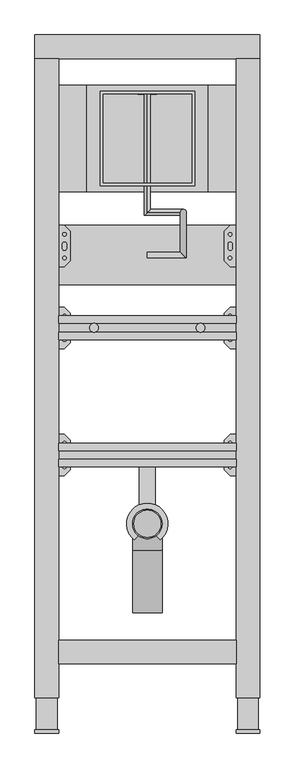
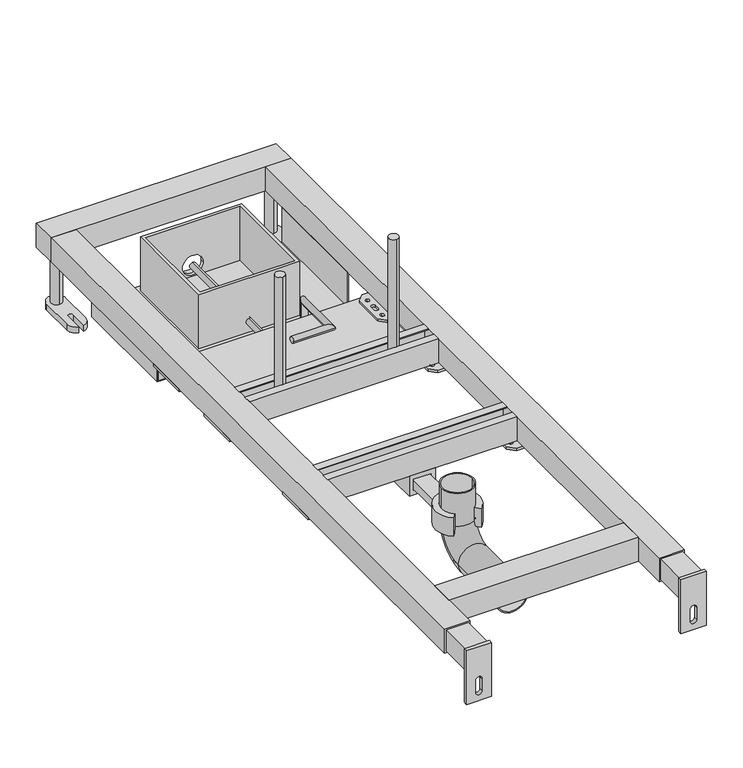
"""IFC4 building model written with IfcOpenShell, lengths in millimetres: sanitary terminal geometry, RSen_74_PF_FB_built-in element urinal xs mechanic for panel square_wisa : xs urinal mechanic for panel square_wisa_built-in element urinal."""

from ifc_helpers import new_model, si_unit, point, frame, frame_2d, origin, origin_with_axes, place, context, project, spatial, polyline, circle_curve, ellipse_curve, trimmed, segment, composite_curve, outline, extrude, source, transform, mapped, element, save
from ifc_brep_helpers import plane_surface, cylinder_surface, revolved_surface, advanced_brep


def sanitary_terminal_61f81738(model_context):
    return source(origin(), model_context, "Body", "SolidModel", [
        advanced_brep(
        [(0.0, 1079.85, 64.0), (0.0, 1079.85, 54.0), (0.0, 880.0, 64.0), (0.0, 880.0, 54.0), (56.0135548, 880.0, 64.0), (66.0135548, 880.0, 54.0), (56.0135548, 880.0, 99.0), (66.0135548, 880.0, 99.0), (56.0135548, 813.0, 99.0), (66.0135548, 803.0, 99.0), (0.0, 813.0, 99.0), (0.0, 803.0, 99.0)],
        [
            (0, 1, circle_curve(frame((0.0, 1079.85, 59.0), z_axis=(0.0, 1.0, 0.0), x_axis=(0.0, 0.0, -1.0)), 5.0)),
            (1, 0, circle_curve(frame((0.0, 1079.85, 59.0), z_axis=(0.0, 1.0, 0.0), x_axis=(0.0, 0.0, -1.0)), 5.0)),
            (0, 2),
            (2, 3, ellipse_curve(frame((0.0, 880.0, 59.0), z_axis=(-0.7071067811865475, 0.7071067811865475, 0.0), x_axis=(0.7071067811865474, 0.7071067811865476, 0.0)), 7.0710678, 5.0)),
            (3, 1),
            (3, 2, ellipse_curve(frame((0.0, 880.0, 59.0), z_axis=(-0.7071067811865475, 0.7071067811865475, 0.0), x_axis=(0.7071067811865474, 0.7071067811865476, 0.0)), 7.0710678, 5.0)),
            (2, 4),
            (4, 5, ellipse_curve(frame((61.0135548, 880.0, 59.0), z_axis=(-0.7071067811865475, 0.0, -0.7071067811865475), x_axis=(-0.7071067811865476, 0.0, 0.7071067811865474)), 7.0710678, 5.0)),
            (5, 3),
            (5, 4, ellipse_curve(frame((61.0135548, 880.0, 59.0), z_axis=(-0.7071067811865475, 0.0, -0.7071067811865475), x_axis=(-0.7071067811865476, 0.0, 0.7071067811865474)), 7.0710678, 5.0)),
            (4, 6),
            (6, 7, ellipse_curve(frame((61.0135548, 880.0, 99.0), z_axis=(0.0, 0.7071067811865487, -0.7071067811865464), x_axis=(0.0, -0.7071067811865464, -0.7071067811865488)), 7.0710678, 5.0)),
            (7, 5),
            (7, 6, ellipse_curve(frame((61.0135548, 880.0, 99.0), z_axis=(0.0, 0.7071067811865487, -0.7071067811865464), x_axis=(0.0, -0.7071067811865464, -0.7071067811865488)), 7.0710678, 5.0)),
            (6, 8),
            (8, 9, ellipse_curve(frame((61.0135548, 808.0, 99.0), z_axis=(0.7071067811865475, 0.7071067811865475, 0.0), x_axis=(-0.7071067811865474, 0.7071067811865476, 0.0)), 7.0710678, 5.0)),
            (9, 7),
            (9, 8, ellipse_curve(frame((61.0135548, 808.0, 99.0), z_axis=(0.7071067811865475, 0.7071067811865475, 0.0), x_axis=(-0.7071067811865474, 0.7071067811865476, 0.0)), 7.0710678, 5.0)),
            (10, 11, circle_curve(frame((0.0, 808.0, 99.0), z_axis=(-1.0, 0.0, 0.0), x_axis=(0.0, -1.0, 0.0)), 5.0)),
            (11, 10, circle_curve(frame((0.0, 808.0, 99.0), z_axis=(-1.0, 0.0, 0.0), x_axis=(0.0, -1.0, 0.0)), 5.0)),
            (8, 10),
            (11, 9),
        ],
        [
            plane_surface(frame((-5.0, 1079.85, 59.0), z_axis=(0.0, 1.0, 0.0), x_axis=(0.0, 0.0, -1.0))),
            cylinder_surface(frame((0.0, 1079.85, 59.0), z_axis=(0.0, 1.0, 0.0), x_axis=(0.0, 0.0, -1.0)), 5.0),
            cylinder_surface(frame((0.0, 880.0, 59.0), z_axis=(-1.0, 0.0, 0.0), x_axis=(0.0, 0.0, -1.0)), 5.0),
            cylinder_surface(frame((61.0135548, 880.0, 59.0), z_axis=(0.0, 0.0, -1.0), x_axis=(1.0, 0.0, 0.0)), 5.0),
            cylinder_surface(frame((61.0135548, 880.0, 99.0), z_axis=(0.0, 1.0, 0.0), x_axis=(1.0, 0.0, 0.0)), 5.0),
            plane_surface(frame((0.0, 808.0, 94.0), z_axis=(-1.0, 0.0, 0.0), x_axis=(0.0, -1.0, 0.0))),
            cylinder_surface(frame((61.0135548, 808.0, 99.0), z_axis=(1.0, 0.0, 0.0), x_axis=(0.0, -1.0, 0.0)), 5.0),
        ],
        [
            (0, [[1, 2]]),
            (1, [[-1, 3, 4, 5]]),
            (1, [[-2, -5, 6, -3]]),
            (2, [[-4, 7, 8, 9]]),
            (2, [[-6, -9, 10, -7]]),
            (3, [[-8, 11, 12, 13]]),
            (3, [[-10, -13, 14, -11]]),
            (4, [[-12, 15, 16, 17]]),
            (4, [[-14, -17, 18, -15]]),
            (5, [[19, 20]]),
            (6, [[-16, 21, -20, 22]]),
            (6, [[-18, -22, -19, -21]]),
        ],
    ),
        advanced_brep(
        [(-79.85, 1084.85, 131.5), (-79.85, 925.15, 131.5), (79.85, 925.15, 131.5), (79.85, 1084.85, 131.5), (74.85, 1079.85, 131.5), (74.85, 930.15, 131.5), (-74.85, 930.15, 131.5), (-74.85, 1079.85, 131.5), (-79.85, 1084.85, 41.5), (79.85, 1084.85, 41.5), (79.85, 925.15, 41.5), (-79.85, 925.15, 41.5), (74.85, 1079.85, 41.5), (-74.85, 1079.85, 41.5), (-74.85, 930.15, 41.5), (74.85, 930.15, 41.5), (-16.25, 1079.85, 59.5), (16.25, 1079.85, 59.5), (16.25, 1084.85, 59.5), (-16.25, 1084.85, 59.5)],
        [
            (0, 1),
            (1, 2),
            (2, 3),
            (3, 0),
            (4, 5),
            (5, 6),
            (6, 7),
            (7, 4),
            (8, 9),
            (9, 10),
            (10, 11),
            (11, 8),
            (12, 13),
            (13, 14),
            (14, 15),
            (15, 12),
            (4, 12),
            (15, 5),
            (14, 6),
            (13, 7),
            (16, 17, circle_curve(frame((0.0, 1079.85, 59.5), z_axis=(0.0, 1.0, 0.0), x_axis=(-1.0, 0.0, 0.0)), 16.25)),
            (17, 16, circle_curve(frame((0.0, 1079.85, 59.5), z_axis=(0.0, 1.0, 0.0), x_axis=(-1.0, 0.0, 0.0)), 16.25)),
            (0, 8),
            (11, 1),
            (10, 2),
            (9, 3),
            (18, 19, circle_curve(frame((0.0, 1084.85, 59.5), z_axis=(0.0, -1.0, 0.0), x_axis=(-1.0, 0.0, 0.0)), 16.25)),
            (19, 18, circle_curve(frame((0.0, 1084.85, 59.5), z_axis=(0.0, -1.0, 0.0), x_axis=(-1.0, 0.0, 0.0)), 16.25)),
            (18, 17),
            (16, 19),
        ],
        [
            plane_surface(frame((74.85, 1079.85, 131.5), z_axis=(0.0, 0.0, 1.0), x_axis=(0.0, -1.0, 0.0))),
            plane_surface(frame((74.85, 1079.85, 41.5), z_axis=(0.0, 0.0, -1.0), x_axis=(0.0, 1.0, 0.0))),
            plane_surface(frame((74.85, 1079.85, 131.5), z_axis=(-1.0, 0.0, 0.0), x_axis=(0.0, 0.0, -1.0))),
            plane_surface(frame((74.85, 930.15, 131.5), z_axis=(0.0, 1.0, 0.0), x_axis=(0.0, 0.0, -1.0))),
            plane_surface(frame((-74.85, 930.15, 131.5), z_axis=(1.0, 0.0, 0.0), x_axis=(0.0, 0.0, -1.0))),
            plane_surface(frame((-74.85, 1079.85, 131.5), z_axis=(0.0, -1.0, 0.0), x_axis=(0.0, 0.0, -1.0))),
            plane_surface(frame((-79.85, 1084.85, 131.5), z_axis=(-1.0, 0.0, 0.0), x_axis=(0.0, 0.0, -1.0))),
            plane_surface(frame((-79.85, 925.15, 131.5), z_axis=(0.0, -1.0, 0.0), x_axis=(0.0, 0.0, -1.0))),
            plane_surface(frame((79.85, 925.15, 131.5), z_axis=(1.0, 0.0, 0.0), x_axis=(0.0, 0.0, -1.0))),
            plane_surface(frame((79.85, 1084.85, 131.5), z_axis=(0.0, 1.0, 0.0), x_axis=(0.0, 0.0, -1.0))),
            revolved_surface(polyline([(-16.25, 1079.85, 59.5), (-16.25, 1084.85, 59.5)]), (0.0, 1084.85, 59.5), (0.0, -1.0, 0.0)),
        ],
        [
            (0, [[1, 2, 3, 4], [5, 6, 7, 8]]),
            (1, [[9, 10, 11, 12], [13, 14, 15, 16]]),
            (2, [[-5, 17, -16, 18]]),
            (3, [[-6, -18, -15, 19]]),
            (4, [[-7, -19, -14, 20]]),
            (5, [[-8, -20, -13, -17], [21, 22]]),
            (6, [[-1, 23, -12, 24]]),
            (7, [[-2, -24, -11, 25]]),
            (8, [[-3, -25, -10, 26]]),
            (9, [[-4, -26, -9, -23], [27, 28]]),
            (10, [[29, -21, 30, -27]]),
            (10, [[-29, -28, -30, -22]]),
        ],
    ),
        extrude(outline(polyline([(102.5, 1095.0), (102.5, 915.0), (-102.5, 915.0), (-102.5, 1095.0), (102.5, 1095.0)])), frame((0.0, 0.0, 36.5), z_axis=(0.0, 0.0, 1.0), x_axis=(1.0, 0.0, 0.0)), (0.0, 0.0, 1.0), 5.0),
        advanced_brep(
        [(-25.0, 353.6133796, 135.0), (25.0, 353.6133796, 135.0), (-23.0, 353.6133796, 135.0), (23.0, 353.6133796, 135.0), (-25.0, 353.6133796, 80.0), (25.0, 353.6133796, 80.0), (25.0, 308.6133796, 35.0), (-25.0, 308.6133796, 35.0), (-25.0, 203.6133796, 35.0), (25.0, 203.6133796, 35.0), (-23.0, 203.6133796, 35.0), (23.0, 203.6133796, 35.0), (-23.0, 353.6133796, 80.0), (23.0, 353.6133796, 80.0), (23.0, 308.6133796, 35.0), (-23.0, 308.6133796, 35.0)],
        [
            (0, 1, circle_curve(frame((0.0, 353.6133796, 135.0), z_axis=(0.0, 0.0, 1.0), x_axis=(1.0, 0.0, 0.0)), 25.0)),
            (1, 0, circle_curve(frame((0.0, 353.6133796, 135.0), z_axis=(0.0, 0.0, 1.0), x_axis=(1.0, 0.0, 0.0)), 25.0)),
            (2, 3, circle_curve(frame((0.0, 353.6133796, 135.0), z_axis=(0.0, 0.0, -1.0), x_axis=(1.0, 0.0, 0.0)), 23.0)),
            (3, 2, circle_curve(frame((0.0, 353.6133796, 135.0), z_axis=(0.0, 0.0, -1.0), x_axis=(1.0, 0.0, 0.0)), 23.0)),
            (0, 4),
            (4, 5, circle_curve(frame((0.0, 353.6133796, 80.0), z_axis=(0.0, 0.0, 1.0), x_axis=(1.0, 0.0, 0.0)), 25.0)),
            (5, 1),
            (5, 4, circle_curve(frame((0.0, 353.6133796, 80.0), z_axis=(0.0, 0.0, 1.0), x_axis=(1.0, 0.0, 0.0)), 25.0)),
            (6, 5, circle_curve(frame((25.0, 308.6133796, 80.0), z_axis=(1.0, 0.0, 0.0), x_axis=(0.0, 1.0, 0.0)), 45.0)),
            (4, 7, circle_curve(frame((-25.0, 308.6133796, 80.0), z_axis=(-1.0, 0.0, 0.0), x_axis=(0.0, 1.0, 0.0)), 45.0)),
            (7, 6, circle_curve(frame((0.0, 308.6133796, 35.0), z_axis=(0.0, 1.0, 0.0), x_axis=(1.0, 0.0, 0.0)), 25.0)),
            (6, 7, circle_curve(frame((0.0, 308.6133796, 35.0), z_axis=(0.0, 1.0, 0.0), x_axis=(1.0, 0.0, 0.0)), 25.0)),
            (8, 9, circle_curve(frame((0.0, 203.6133796, 35.0), z_axis=(0.0, -1.0, 0.0), x_axis=(1.0, 0.0, 0.0)), 25.0)),
            (9, 8, circle_curve(frame((0.0, 203.6133796, 35.0), z_axis=(0.0, -1.0, 0.0), x_axis=(1.0, 0.0, 0.0)), 25.0)),
            (10, 11, circle_curve(frame((0.0, 203.6133796, 35.0), z_axis=(0.0, 1.0, 0.0), x_axis=(1.0, 0.0, 0.0)), 23.0)),
            (11, 10, circle_curve(frame((0.0, 203.6133796, 35.0), z_axis=(0.0, 1.0, 0.0), x_axis=(1.0, 0.0, 0.0)), 23.0)),
            (7, 8),
            (9, 6),
            (2, 12),
            (12, 13, circle_curve(frame((0.0, 353.6133796, 80.0), z_axis=(0.0, 0.0, -1.0), x_axis=(1.0, 0.0, 0.0)), 23.0)),
            (13, 3),
            (13, 12, circle_curve(frame((0.0, 353.6133796, 80.0), z_axis=(0.0, 0.0, -1.0), x_axis=(1.0, 0.0, 0.0)), 23.0)),
            (14, 13, circle_curve(frame((23.0, 308.6133796, 80.0), z_axis=(1.0, 0.0, 0.0), x_axis=(0.0, 1.0, 0.0)), 45.0)),
            (12, 15, circle_curve(frame((-23.0, 308.6133796, 80.0), z_axis=(-1.0, 0.0, 0.0), x_axis=(0.0, 1.0, 0.0)), 45.0)),
            (15, 14, circle_curve(frame((0.0, 308.6133796, 35.0), z_axis=(0.0, -1.0, 0.0), x_axis=(1.0, 0.0, 0.0)), 23.0)),
            (14, 15, circle_curve(frame((0.0, 308.6133796, 35.0), z_axis=(0.0, -1.0, 0.0), x_axis=(1.0, 0.0, 0.0)), 23.0)),
            (15, 10),
            (11, 14),
        ],
        [
            plane_surface(frame((0.0, 353.6133796, 135.0), z_axis=(0.0, 0.0, 1.0), x_axis=(1.0, 0.0, 0.0))),
            cylinder_surface(frame((0.0, 353.6133796, 135.0), z_axis=(0.0, 0.0, 1.0), x_axis=(1.0, 0.0, 0.0)), 25.0),
            revolved_surface(trimmed(ellipse_curve(frame((0.0, 353.6133796, 80.0), z_axis=(0.0, 0.0, 1.0), x_axis=(1.0, 0.0, 0.0)), 25.0, 25.0), [point((-25.0, 353.6133796, 80.0))], [point((25.0, 353.6133796, 80.0))], True, "CARTESIAN"), (0.0, 308.6133796, 80.0), (-1.0, 0.0, 0.0)),
            revolved_surface(trimmed(ellipse_curve(frame((0.0, 353.6133796, 80.0), z_axis=(0.0, 0.0, 1.0), x_axis=(1.0, 0.0, 0.0)), 25.0, 25.0), [point((25.0, 353.6133796, 80.0))], [point((-25.0, 353.6133796, 80.0))], True, "CARTESIAN"), (0.0, 308.6133796, 80.0), (-1.0, 0.0, 0.0)),
            plane_surface(frame((0.0, 203.6133796, 35.0), z_axis=(0.0, -1.0, 0.0), x_axis=(1.0, 0.0, 0.0))),
            cylinder_surface(frame((0.0, 308.6133796, 35.0), z_axis=(0.0, 1.0, 0.0), x_axis=(1.0, 0.0, 0.0)), 25.0),
            revolved_surface(polyline([(23.0, 353.6133796, 80.0), (23.0, 353.6133796, 135.0)]), (0.0, 353.6133796, 135.0), (0.0, 0.0, -1.0)),
            revolved_surface(trimmed(ellipse_curve(frame((0.0, 353.6133796, 80.0), z_axis=(0.0, 0.0, -1.0), x_axis=(1.0, 0.0, 0.0)), 23.0, 23.0), [point((-23.0, 353.6133796, 80.0))], [point((23.0, 353.6133796, 80.0))], True, "CARTESIAN"), (0.0, 308.6133796, 80.0), (-1.0, 0.0, 0.0)),
            revolved_surface(trimmed(ellipse_curve(frame((0.0, 353.6133796, 80.0), z_axis=(0.0, 0.0, -1.0), x_axis=(1.0, 0.0, 0.0)), 23.0, 23.0), [point((23.0, 353.6133796, 80.0))], [point((-23.0, 353.6133796, 80.0))], True, "CARTESIAN"), (0.0, 308.6133796, 80.0), (-1.0, 0.0, 0.0)),
            revolved_surface(polyline([(23.0, 203.6133796, 35.0), (23.0, 308.6133796, 35.0)]), (0.0, 308.6133796, 35.0), (0.0, -1.0, 0.0)),
        ],
        [
            (0, [[1, 2], [3, 4]]),
            (1, [[-1, 5, 6, 7]]),
            (1, [[-2, -7, 8, -5]]),
            (2, [[9, -6, 10, 11]]),
            (3, [[-10, -8, -9, 12]]),
            (4, [[13, 14], [15, 16]]),
            (5, [[-11, 17, -14, 18]]),
            (5, [[-12, -18, -13, -17]]),
            (6, [[-3, 19, 20, 21]]),
            (6, [[-4, -21, 22, -19]]),
            (7, [[23, -20, 24, 25]]),
            (8, [[-24, -22, -23, 26]]),
            (9, [[-25, 27, -16, 28]]),
            (9, [[-26, -28, -15, -27]]),
        ],
    ),
        extrude(outline(composite_curve([segment(trimmed(circle_curve(frame_2d((-0.1785173, 353.614017)), 25.0), [point((14.8942159, 333.6687741))], [point((-15.2512505, 333.6687741))], True, "CARTESIAN"), True, "CONTINUOUS"), segment(polyline([(-15.2512505, 333.6687741), (-22.3707959, 326.5492287)]), True, "CONTINUOUS"), segment(trimmed(circle_curve(frame_2d((-0.1785173, 353.614017)), 35.0), [point((-22.3707959, 326.5492287))], [point((-0.1785173, 388.614017))], False, "CARTESIAN"), True, "CONTINUOUS"), segment(trimmed(circle_curve(frame_2d((-0.1785173, 353.614017)), 35.0), [point((-0.1785173, 388.614017))], [point((22.0137614, 326.5492287))], False, "CARTESIAN"), True, "CONTINUOUS"), segment(polyline([(22.0137614, 326.5492287), (14.8942159, 333.6687741)]), True, "CONTINUOUS")], self_intersect=False)), frame((0.0, 0.0, 70.0), z_axis=(0.0, 0.0, 1.0), x_axis=(1.0, 0.0, 0.0)), (0.0, 0.0, 1.0), 31.0),
        extrude(outline(polyline([(-13.9285173, 490.0), (13.5714827, 490.0), (13.5714827, 385.8), (-13.9285173, 385.8), (-13.9285173, 490.0)])), frame((0.0, 0.0, 71.5), z_axis=(0.0, 0.0, 1.0), x_axis=(1.0, 0.0, 0.0)), (0.0, 0.0, 1.0), 13.5),
        extrude(outline(polyline([(95.0, 20.75), (95.0, -20.75), (61.5, -20.75), (61.5, 20.75), (95.0, 20.75)]), holes=[polyline([(87.5, 13.5714827), (69.0, 13.5714827), (69.0, -13.9285173), (87.5, -13.9285173), (87.5, 13.5714827)])]), frame((0.0, 450.0, 0.0), z_axis=(0.0, 1.0, 0.0), x_axis=(0.0, 0.0, 1.0)), (0.0, 0.0, 1.0), 40.0),
        extrude(outline(composite_curve([segment(trimmed(circle_curve(frame_2d((-90.0, 685.0)), 7.5154833), [point((-90.0, 692.5154833))], [point((-90.0, 677.4845167))], False, "CARTESIAN"), True, "CONTINUOUS"), segment(trimmed(circle_curve(frame_2d((-90.0, 685.0)), 7.5154833), [point((-90.0, 677.4845167))], [point((-90.0, 692.5154833))], False, "CARTESIAN"), True, "CONTINUOUS")], self_intersect=False)), frame((0.0, 0.0, 115.0), z_axis=(0.0, 0.0, 1.0), x_axis=(1.0, 0.0, 0.0)), (0.0, 0.0, 1.0), 200.0),
        extrude(outline(composite_curve([segment(trimmed(circle_curve(frame_2d((90.0, 685.0)), 7.5154833), [point((90.0, 692.5154833))], [point((90.0, 677.4845167))], False, "CARTESIAN"), True, "CONTINUOUS"), segment(trimmed(circle_curve(frame_2d((90.0, 685.0)), 7.5154833), [point((90.0, 677.4845167))], [point((90.0, 692.5154833))], False, "CARTESIAN"), True, "CONTINUOUS")], self_intersect=False)), frame((0.0, 0.0, 115.0), z_axis=(0.0, 0.0, 1.0), x_axis=(1.0, 0.0, 0.0)), (0.0, 0.0, 1.0), 200.0),
        extrude(outline(polyline([(150.0, 1095.0), (150.0, 915.0), (-150.0, 915.0), (-150.0, 1095.0), (150.0, 1095.0)])), frame((0.0, 0.0, 18.5), z_axis=(0.0, 0.0, 1.0), x_axis=(1.0, 0.0, 0.0)), (0.0, 0.0, 1.0), 18.0),
        extrude(outline(polyline([(95.0, -185.0), (93.5, -185.0), (93.5, -151.5), (17.0, -151.5), (17.0, -123.5), (18.5, -123.5), (18.5, -150.0), (95.0, -150.0), (95.0, -185.0)])), frame((0.0, 915.0, 0.0), z_axis=(0.0, 1.0, 0.0), x_axis=(0.0, 0.0, 1.0)), (0.0, 0.0, 1.0), 180.0),
        extrude(outline(polyline([(95.0, 185.0), (95.0, 150.0), (18.5, 150.0), (18.5, 123.5), (17.0, 123.5), (17.0, 151.5), (93.5, 151.5), (93.5, 185.0), (95.0, 185.0)])), frame((0.0, 915.0, 0.0), z_axis=(0.0, 1.0, 0.0), x_axis=(0.0, 0.0, 1.0)), (0.0, 0.0, 1.0), 180.0),
        extrude(outline(polyline([(150.0, 858.0), (150.0, 758.0), (-150.0, 758.0), (-150.0, 858.0), (150.0, 858.0)])), frame((0.0, 0.0, 73.0), z_axis=(0.0, 0.0, 1.0), x_axis=(1.0, 0.0, 0.0)), (0.0, 0.0, 1.0), 18.0),
        extrude(outline(polyline([(665.0, 135.0), (677.4845167, 135.0), (677.4845167, 133.5), (666.5, 133.5), (666.5, 96.5), (703.5, 96.5), (703.5, 133.5), (692.5154833, 133.5), (692.5154833, 135.0), (705.0, 135.0), (705.0, 95.0), (665.0, 95.0), (665.0, 135.0)])), frame((-150.0, 0.0, 0.0), z_axis=(1.0, 0.0, 0.0), x_axis=(0.0, 1.0, 0.0)), (0.0, 0.0, 1.0), 300.0),
        extrude(outline(polyline([(450.0, 135.0), (462.4845167, 135.0), (462.4845167, 133.5), (451.5, 133.5), (451.5, 96.5), (488.5, 96.5), (488.5, 133.5), (477.5154833, 133.5), (477.5154833, 135.0), (490.0, 135.0), (490.0, 95.0), (450.0, 95.0), (450.0, 135.0)])), frame((-150.0, 0.0, 0.0), z_axis=(1.0, 0.0, 0.0), x_axis=(0.0, 1.0, 0.0)), (0.0, 0.0, 1.0), 300.0),
        extrude(outline(polyline([(140.0, 788.0), (130.0, 798.0), (130.0, 848.0), (140.0, 858.0), (190.0, 858.0), (190.0, 788.0), (140.0, 788.0)]), holes=[composite_curve([segment(trimmed(circle_curve(frame_2d((175.0, 823.0)), 4.5), [point((175.0, 818.5))], [point((175.0, 827.5))], True, "CARTESIAN"), True, "CONTINUOUS"), segment(trimmed(circle_curve(frame_2d((175.0, 823.0)), 4.5), [point((175.0, 827.5))], [point((175.0, 818.5))], True, "CARTESIAN"), True, "CONTINUOUS")], self_intersect=False), composite_curve([segment(trimmed(circle_curve(frame_2d((175.0, 843.0)), 4.5), [point((175.0, 838.5))], [point((175.0, 847.5))], True, "CARTESIAN"), True, "CONTINUOUS"), segment(trimmed(circle_curve(frame_2d((175.0, 843.0)), 4.5), [point((175.0, 847.5))], [point((175.0, 838.5))], True, "CARTESIAN"), True, "CONTINUOUS")], self_intersect=False), composite_curve([segment(trimmed(circle_curve(frame_2d((175.0, 803.0)), 4.5), [point((175.0, 798.5))], [point((175.0, 807.5))], True, "CARTESIAN"), True, "CONTINUOUS"), segment(trimmed(circle_curve(frame_2d((175.0, 803.0)), 4.5), [point((175.0, 807.5))], [point((175.0, 798.5))], True, "CARTESIAN"), True, "CONTINUOUS")], self_intersect=False), composite_curve([segment(trimmed(circle_curve(frame_2d((140.0, 843.0)), 2.9795218), [point((140.0, 840.0204782))], [point((140.0, 845.9795218))], True, "CARTESIAN"), True, "CONTINUOUS"), segment(trimmed(circle_curve(frame_2d((140.0, 843.0)), 2.9795218), [point((140.0, 845.9795218))], [point((140.0, 840.0204782))], True, "CARTESIAN"), True, "CONTINUOUS")], self_intersect=False), composite_curve([segment(trimmed(circle_curve(frame_2d((140.0, 803.0)), 2.9795218), [point((140.0, 800.0204782))], [point((140.0, 805.9795218))], True, "CARTESIAN"), True, "CONTINUOUS"), segment(trimmed(circle_curve(frame_2d((140.0, 803.0)), 2.9795218), [point((140.0, 805.9795218))], [point((140.0, 800.0204782))], True, "CARTESIAN"), True, "CONTINUOUS")], self_intersect=False), composite_curve([segment(trimmed(circle_curve(frame_2d((140.0, 826.5)), 3.5), [point((143.5, 826.5))], [point((136.5, 826.5))], True, "CARTESIAN"), True, "CONTINUOUS"), segment(polyline([(136.5, 826.5), (136.5, 819.5)]), True, "CONTINUOUS"), segment(trimmed(circle_curve(frame_2d((140.0, 819.5)), 3.5), [point((136.5, 819.5))], [point((143.5, 819.5))], True, "CARTESIAN"), True, "CONTINUOUS"), segment(polyline([(143.5, 819.5), (143.5, 826.5)]), True, "CONTINUOUS")], self_intersect=False)]), frame((0.0, 0.0, 91.0), z_axis=(0.0, 0.0, 1.0), x_axis=(1.0, 0.0, 0.0)), (0.0, 0.0, 1.0), 4.0),
        extrude(outline(polyline([(-140.0, 788.0), (-190.0, 788.0), (-190.0, 858.0), (-140.0, 858.0), (-130.0, 848.0), (-130.0, 798.0), (-140.0, 788.0)]), holes=[composite_curve([segment(trimmed(circle_curve(frame_2d((-175.0, 823.0)), 4.5), [point((-175.0, 818.5))], [point((-175.0, 827.5))], True, "CARTESIAN"), True, "CONTINUOUS"), segment(trimmed(circle_curve(frame_2d((-175.0, 823.0)), 4.5), [point((-175.0, 827.5))], [point((-175.0, 818.5))], True, "CARTESIAN"), True, "CONTINUOUS")], self_intersect=False), composite_curve([segment(trimmed(circle_curve(frame_2d((-175.0, 843.0)), 4.5), [point((-175.0, 838.5))], [point((-175.0, 847.5))], True, "CARTESIAN"), True, "CONTINUOUS"), segment(trimmed(circle_curve(frame_2d((-175.0, 843.0)), 4.5), [point((-175.0, 847.5))], [point((-175.0, 838.5))], True, "CARTESIAN"), True, "CONTINUOUS")], self_intersect=False), composite_curve([segment(trimmed(circle_curve(frame_2d((-175.0, 803.0)), 4.5), [point((-175.0, 798.5))], [point((-175.0, 807.5))], True, "CARTESIAN"), True, "CONTINUOUS"), segment(trimmed(circle_curve(frame_2d((-175.0, 803.0)), 4.5), [point((-175.0, 807.5))], [point((-175.0, 798.5))], True, "CARTESIAN"), True, "CONTINUOUS")], self_intersect=False), composite_curve([segment(trimmed(circle_curve(frame_2d((-140.0, 843.0)), 2.9795218), [point((-140.0, 840.0204782))], [point((-140.0, 845.9795218))], True, "CARTESIAN"), True, "CONTINUOUS"), segment(trimmed(circle_curve(frame_2d((-140.0, 843.0)), 2.9795218), [point((-140.0, 845.9795218))], [point((-140.0, 840.0204782))], True, "CARTESIAN"), True, "CONTINUOUS")], self_intersect=False), composite_curve([segment(trimmed(circle_curve(frame_2d((-140.0, 803.0)), 2.9795218), [point((-140.0, 800.0204782))], [point((-140.0, 805.9795218))], True, "CARTESIAN"), True, "CONTINUOUS"), segment(trimmed(circle_curve(frame_2d((-140.0, 803.0)), 2.9795218), [point((-140.0, 805.9795218))], [point((-140.0, 800.0204782))], True, "CARTESIAN"), True, "CONTINUOUS")], self_intersect=False), composite_curve([segment(polyline([(-143.5, 826.5), (-143.5, 819.5)]), True, "CONTINUOUS"), segment(trimmed(circle_curve(frame_2d((-140.0, 819.5)), 3.5), [point((-143.5, 819.5))], [point((-136.5, 819.5))], True, "CARTESIAN"), True, "CONTINUOUS"), segment(polyline([(-136.5, 819.5), (-136.5, 826.5)]), True, "CONTINUOUS"), segment(trimmed(circle_curve(frame_2d((-140.0, 826.5)), 3.5), [point((-136.5, 826.5))], [point((-143.5, 826.5))], True, "CARTESIAN"), True, "CONTINUOUS")], self_intersect=False)]), frame((0.0, 0.0, 91.0), z_axis=(0.0, 0.0, 1.0), x_axis=(1.0, 0.0, 0.0)), (0.0, 0.0, 1.0), 4.0),
        extrude(outline(polyline([(140.0, 650.0), (130.0, 660.0), (130.0, 710.0), (140.0, 720.0), (190.0, 720.0), (190.0, 650.0), (140.0, 650.0)]), holes=[composite_curve([segment(trimmed(circle_curve(frame_2d((175.0, 685.0)), 4.5), [point((175.0, 680.5))], [point((175.0, 689.5))], True, "CARTESIAN"), True, "CONTINUOUS"), segment(trimmed(circle_curve(frame_2d((175.0, 685.0)), 4.5), [point((175.0, 689.5))], [point((175.0, 680.5))], True, "CARTESIAN"), True, "CONTINUOUS")], self_intersect=False), composite_curve([segment(trimmed(circle_curve(frame_2d((175.0, 705.0)), 4.5), [point((175.0, 700.5))], [point((175.0, 709.5))], True, "CARTESIAN"), True, "CONTINUOUS"), segment(trimmed(circle_curve(frame_2d((175.0, 705.0)), 4.5), [point((175.0, 709.5))], [point((175.0, 700.5))], True, "CARTESIAN"), True, "CONTINUOUS")], self_intersect=False), composite_curve([segment(trimmed(circle_curve(frame_2d((175.0, 665.0)), 4.5), [point((175.0, 660.5))], [point((175.0, 669.5))], True, "CARTESIAN"), True, "CONTINUOUS"), segment(trimmed(circle_curve(frame_2d((175.0, 665.0)), 4.5), [point((175.0, 669.5))], [point((175.0, 660.5))], True, "CARTESIAN"), True, "CONTINUOUS")], self_intersect=False), composite_curve([segment(trimmed(circle_curve(frame_2d((140.0, 705.0)), 2.9795218), [point((140.0, 702.0204782))], [point((140.0, 707.9795218))], True, "CARTESIAN"), True, "CONTINUOUS"), segment(trimmed(circle_curve(frame_2d((140.0, 705.0)), 2.9795218), [point((140.0, 707.9795218))], [point((140.0, 702.0204782))], True, "CARTESIAN"), True, "CONTINUOUS")], self_intersect=False), composite_curve([segment(trimmed(circle_curve(frame_2d((140.0, 665.0)), 2.9795218), [point((140.0, 662.0204782))], [point((140.0, 667.9795218))], True, "CARTESIAN"), True, "CONTINUOUS"), segment(trimmed(circle_curve(frame_2d((140.0, 665.0)), 2.9795218), [point((140.0, 667.9795218))], [point((140.0, 662.0204782))], True, "CARTESIAN"), True, "CONTINUOUS")], self_intersect=False), composite_curve([segment(trimmed(circle_curve(frame_2d((140.0, 688.5)), 3.5), [point((143.5, 688.5))], [point((136.5, 688.5))], True, "CARTESIAN"), True, "CONTINUOUS"), segment(polyline([(136.5, 688.5), (136.5, 681.5)]), True, "CONTINUOUS"), segment(trimmed(circle_curve(frame_2d((140.0, 681.5)), 3.5), [point((136.5, 681.5))], [point((143.5, 681.5))], True, "CARTESIAN"), True, "CONTINUOUS"), segment(polyline([(143.5, 681.5), (143.5, 688.5)]), True, "CONTINUOUS")], self_intersect=False)]), frame((0.0, 0.0, 91.0), z_axis=(0.0, 0.0, 1.0), x_axis=(1.0, 0.0, 0.0)), (0.0, 0.0, 1.0), 4.0),
        extrude(outline(polyline([(-140.0, 650.0), (-190.0, 650.0), (-190.0, 720.0), (-140.0, 720.0), (-130.0, 710.0), (-130.0, 660.0), (-140.0, 650.0)]), holes=[composite_curve([segment(trimmed(circle_curve(frame_2d((-175.0, 685.0)), 4.5), [point((-175.0, 680.5))], [point((-175.0, 689.5))], True, "CARTESIAN"), True, "CONTINUOUS"), segment(trimmed(circle_curve(frame_2d((-175.0, 685.0)), 4.5), [point((-175.0, 689.5))], [point((-175.0, 680.5))], True, "CARTESIAN"), True, "CONTINUOUS")], self_intersect=False), composite_curve([segment(trimmed(circle_curve(frame_2d((-175.0, 705.0)), 4.5), [point((-175.0, 700.5))], [point((-175.0, 709.5))], True, "CARTESIAN"), True, "CONTINUOUS"), segment(trimmed(circle_curve(frame_2d((-175.0, 705.0)), 4.5), [point((-175.0, 709.5))], [point((-175.0, 700.5))], True, "CARTESIAN"), True, "CONTINUOUS")], self_intersect=False), composite_curve([segment(trimmed(circle_curve(frame_2d((-175.0, 665.0)), 4.5), [point((-175.0, 660.5))], [point((-175.0, 669.5))], True, "CARTESIAN"), True, "CONTINUOUS"), segment(trimmed(circle_curve(frame_2d((-175.0, 665.0)), 4.5), [point((-175.0, 669.5))], [point((-175.0, 660.5))], True, "CARTESIAN"), True, "CONTINUOUS")], self_intersect=False), composite_curve([segment(trimmed(circle_curve(frame_2d((-140.0, 705.0)), 2.9795218), [point((-140.0, 702.0204782))], [point((-140.0, 707.9795218))], True, "CARTESIAN"), True, "CONTINUOUS"), segment(trimmed(circle_curve(frame_2d((-140.0, 705.0)), 2.9795218), [point((-140.0, 707.9795218))], [point((-140.0, 702.0204782))], True, "CARTESIAN"), True, "CONTINUOUS")], self_intersect=False), composite_curve([segment(trimmed(circle_curve(frame_2d((-140.0, 665.0)), 2.9795218), [point((-140.0, 662.0204782))], [point((-140.0, 667.9795218))], True, "CARTESIAN"), True, "CONTINUOUS"), segment(trimmed(circle_curve(frame_2d((-140.0, 665.0)), 2.9795218), [point((-140.0, 667.9795218))], [point((-140.0, 662.0204782))], True, "CARTESIAN"), True, "CONTINUOUS")], self_intersect=False), composite_curve([segment(polyline([(-143.5, 688.5), (-143.5, 681.5)]), True, "CONTINUOUS"), segment(trimmed(circle_curve(frame_2d((-140.0, 681.5)), 3.5), [point((-143.5, 681.5))], [point((-136.5, 681.5))], True, "CARTESIAN"), True, "CONTINUOUS"), segment(polyline([(-136.5, 681.5), (-136.5, 688.5)]), True, "CONTINUOUS"), segment(trimmed(circle_curve(frame_2d((-140.0, 688.5)), 3.5), [point((-136.5, 688.5))], [point((-143.5, 688.5))], True, "CARTESIAN"), True, "CONTINUOUS")], self_intersect=False)]), frame((0.0, 0.0, 91.0), z_axis=(0.0, 0.0, 1.0), x_axis=(1.0, 0.0, 0.0)), (0.0, 0.0, 1.0), 4.0),
        extrude(outline(polyline([(140.0, 435.0), (130.0, 445.0), (130.0, 495.0), (140.0, 505.0), (190.0, 505.0), (190.0, 435.0), (140.0, 435.0)]), holes=[composite_curve([segment(trimmed(circle_curve(frame_2d((175.0, 470.0)), 4.5), [point((175.0, 465.5))], [point((175.0, 474.5))], True, "CARTESIAN"), True, "CONTINUOUS"), segment(trimmed(circle_curve(frame_2d((175.0, 470.0)), 4.5), [point((175.0, 474.5))], [point((175.0, 465.5))], True, "CARTESIAN"), True, "CONTINUOUS")], self_intersect=False), composite_curve([segment(trimmed(circle_curve(frame_2d((175.0, 490.0)), 4.5), [point((175.0, 485.5))], [point((175.0, 494.5))], True, "CARTESIAN"), True, "CONTINUOUS"), segment(trimmed(circle_curve(frame_2d((175.0, 490.0)), 4.5), [point((175.0, 494.5))], [point((175.0, 485.5))], True, "CARTESIAN"), True, "CONTINUOUS")], self_intersect=False), composite_curve([segment(trimmed(circle_curve(frame_2d((175.0, 450.0)), 4.5), [point((175.0, 445.5))], [point((175.0, 454.5))], True, "CARTESIAN"), True, "CONTINUOUS"), segment(trimmed(circle_curve(frame_2d((175.0, 450.0)), 4.5), [point((175.0, 454.5))], [point((175.0, 445.5))], True, "CARTESIAN"), True, "CONTINUOUS")], self_intersect=False), composite_curve([segment(trimmed(circle_curve(frame_2d((140.0, 490.0)), 2.9795218), [point((140.0, 487.0204782))], [point((140.0, 492.9795218))], True, "CARTESIAN"), True, "CONTINUOUS"), segment(trimmed(circle_curve(frame_2d((140.0, 490.0)), 2.9795218), [point((140.0, 492.9795218))], [point((140.0, 487.0204782))], True, "CARTESIAN"), True, "CONTINUOUS")], self_intersect=False), composite_curve([segment(trimmed(circle_curve(frame_2d((140.0, 450.0)), 2.9795218), [point((140.0, 447.0204782))], [point((140.0, 452.9795218))], True, "CARTESIAN"), True, "CONTINUOUS"), segment(trimmed(circle_curve(frame_2d((140.0, 450.0)), 2.9795218), [point((140.0, 452.9795218))], [point((140.0, 447.0204782))], True, "CARTESIAN"), True, "CONTINUOUS")], self_intersect=False), composite_curve([segment(trimmed(circle_curve(frame_2d((140.0, 473.5)), 3.5), [point((143.5, 473.5))], [point((136.5, 473.5))], True, "CARTESIAN"), True, "CONTINUOUS"), segment(polyline([(136.5, 473.5), (136.5, 466.5)]), True, "CONTINUOUS"), segment(trimmed(circle_curve(frame_2d((140.0, 466.5)), 3.5), [point((136.5, 466.5))], [point((143.5, 466.5))], True, "CARTESIAN"), True, "CONTINUOUS"), segment(polyline([(143.5, 466.5), (143.5, 473.5)]), True, "CONTINUOUS")], self_intersect=False)]), frame((0.0, 0.0, 91.0), z_axis=(0.0, 0.0, 1.0), x_axis=(1.0, 0.0, 0.0)), (0.0, 0.0, 1.0), 4.0),
        extrude(outline(polyline([(-140.0, 435.0), (-190.0, 435.0), (-190.0, 505.0), (-140.0, 505.0), (-130.0, 495.0), (-130.0, 445.0), (-140.0, 435.0)]), holes=[composite_curve([segment(trimmed(circle_curve(frame_2d((-175.0, 470.0)), 4.5), [point((-175.0, 465.5))], [point((-175.0, 474.5))], True, "CARTESIAN"), True, "CONTINUOUS"), segment(trimmed(circle_curve(frame_2d((-175.0, 470.0)), 4.5), [point((-175.0, 474.5))], [point((-175.0, 465.5))], True, "CARTESIAN"), True, "CONTINUOUS")], self_intersect=False), composite_curve([segment(trimmed(circle_curve(frame_2d((-175.0, 490.0)), 4.5), [point((-175.0, 485.5))], [point((-175.0, 494.5))], True, "CARTESIAN"), True, "CONTINUOUS"), segment(trimmed(circle_curve(frame_2d((-175.0, 490.0)), 4.5), [point((-175.0, 494.5))], [point((-175.0, 485.5))], True, "CARTESIAN"), True, "CONTINUOUS")], self_intersect=False), composite_curve([segment(trimmed(circle_curve(frame_2d((-175.0, 450.0)), 4.5), [point((-175.0, 445.5))], [point((-175.0, 454.5))], True, "CARTESIAN"), True, "CONTINUOUS"), segment(trimmed(circle_curve(frame_2d((-175.0, 450.0)), 4.5), [point((-175.0, 454.5))], [point((-175.0, 445.5))], True, "CARTESIAN"), True, "CONTINUOUS")], self_intersect=False), composite_curve([segment(trimmed(circle_curve(frame_2d((-140.0, 490.0)), 2.9795218), [point((-140.0, 487.0204782))], [point((-140.0, 492.9795218))], True, "CARTESIAN"), True, "CONTINUOUS"), segment(trimmed(circle_curve(frame_2d((-140.0, 490.0)), 2.9795218), [point((-140.0, 492.9795218))], [point((-140.0, 487.0204782))], True, "CARTESIAN"), True, "CONTINUOUS")], self_intersect=False), composite_curve([segment(trimmed(circle_curve(frame_2d((-140.0, 450.0)), 2.9795218), [point((-140.0, 447.0204782))], [point((-140.0, 452.9795218))], True, "CARTESIAN"), True, "CONTINUOUS"), segment(trimmed(circle_curve(frame_2d((-140.0, 450.0)), 2.9795218), [point((-140.0, 452.9795218))], [point((-140.0, 447.0204782))], True, "CARTESIAN"), True, "CONTINUOUS")], self_intersect=False), composite_curve([segment(polyline([(-143.5, 473.5), (-143.5, 466.5)]), True, "CONTINUOUS"), segment(trimmed(circle_curve(frame_2d((-140.0, 466.5)), 3.5), [point((-143.5, 466.5))], [point((-136.5, 466.5))], True, "CARTESIAN"), True, "CONTINUOUS"), segment(polyline([(-136.5, 466.5), (-136.5, 473.5)]), True, "CONTINUOUS"), segment(trimmed(circle_curve(frame_2d((-140.0, 473.5)), 3.5), [point((-136.5, 473.5))], [point((-143.5, 473.5))], True, "CARTESIAN"), True, "CONTINUOUS")], self_intersect=False)]), frame((0.0, 0.0, 91.0), z_axis=(0.0, 0.0, 1.0), x_axis=(1.0, 0.0, 0.0)), (0.0, 0.0, 1.0), 4.0),
        extrude(outline(composite_curve([segment(trimmed(circle_curve(frame_2d((-170.0, 1160.0)), 8.75), [point((-170.0, 1151.25))], [point((-170.0, 1168.75))], False, "CARTESIAN"), True, "CONTINUOUS"), segment(trimmed(circle_curve(frame_2d((-170.0, 1160.0)), 8.75), [point((-170.0, 1168.75))], [point((-170.0, 1151.25))], False, "CARTESIAN"), True, "CONTINUOUS")], self_intersect=False)), frame((0.0, 0.0, 10.0), z_axis=(0.0, 0.0, 1.0), x_axis=(1.0, 0.0, 0.0)), (0.0, 0.0, 1.0), 85.0),
        extrude(outline(composite_curve([segment(trimmed(circle_curve(frame_2d((170.0, 1160.0)), 8.75), [point((170.0, 1151.25))], [point((170.0, 1168.75))], False, "CARTESIAN"), True, "CONTINUOUS"), segment(trimmed(circle_curve(frame_2d((170.0, 1160.0)), 8.75), [point((170.0, 1168.75))], [point((170.0, 1151.25))], False, "CARTESIAN"), True, "CONTINUOUS")], self_intersect=False)), frame((0.0, 0.0, 10.0), z_axis=(0.0, 0.0, 1.0), x_axis=(1.0, 0.0, 0.0)), (0.0, 0.0, 1.0), 85.0),
        extrude(outline(composite_curve([segment(trimmed(circle_curve(frame_2d((-170.0, 1160.0)), 15.0), [point((-185.0, 1160.0))], [point((-155.0, 1160.0))], False, "CARTESIAN"), True, "CONTINUOUS"), segment(polyline([(-155.0, 1160.0), (-155.0, 1106.0)]), True, "CONTINUOUS"), segment(trimmed(circle_curve(frame_2d((-170.0, 1106.0)), 15.0), [point((-155.0, 1106.0))], [point((-166.0, 1091.5431677))], False, "CARTESIAN"), True, "CONTINUOUS"), segment(polyline([(-166.0, 1091.5431677), (-166.0, 1120.4568323)]), True, "CONTINUOUS"), segment(trimmed(circle_curve(frame_2d((-170.0, 1120.4568323)), 4.0), [point((-166.0, 1120.4568323))], [point((-174.0, 1120.4568323))], True, "CARTESIAN"), True, "CONTINUOUS"), segment(polyline([(-174.0, 1120.4568323), (-174.0, 1091.5431677)]), True, "CONTINUOUS"), segment(trimmed(circle_curve(frame_2d((-170.0, 1106.0)), 15.0), [point((-174.0, 1091.5431677))], [point((-185.0, 1106.0))], False, "CARTESIAN"), True, "CONTINUOUS"), segment(polyline([(-185.0, 1106.0), (-185.0, 1160.0)]), True, "CONTINUOUS")], self_intersect=False)), origin_with_axes(), (0.0, 0.0, 1.0), 10.0),
        extrude(outline(composite_curve([segment(polyline([(185.0, 1160.0), (185.0, 1106.0)]), True, "CONTINUOUS"), segment(trimmed(circle_curve(frame_2d((170.0, 1106.0)), 15.0), [point((185.0, 1106.0))], [point((174.0, 1091.5431677))], False, "CARTESIAN"), True, "CONTINUOUS"), segment(polyline([(174.0, 1091.5431677), (174.0, 1120.4568323)]), True, "CONTINUOUS"), segment(trimmed(circle_curve(frame_2d((170.0, 1120.4568323)), 4.0), [point((174.0, 1120.4568323))], [point((166.0, 1120.4568323))], True, "CARTESIAN"), True, "CONTINUOUS"), segment(polyline([(166.0, 1120.4568323), (166.0, 1091.5431677)]), True, "CONTINUOUS"), segment(trimmed(circle_curve(frame_2d((170.0, 1106.0)), 15.0), [point((166.0, 1091.5431677))], [point((155.0, 1106.0))], False, "CARTESIAN"), True, "CONTINUOUS"), segment(polyline([(155.0, 1106.0), (155.0, 1160.0)]), True, "CONTINUOUS"), segment(trimmed(circle_curve(frame_2d((170.0, 1160.0)), 15.0), [point((155.0, 1160.0))], [point((185.0, 1160.0))], False, "CARTESIAN"), True, "CONTINUOUS")], self_intersect=False)), origin_with_axes(), (0.0, 0.0, 1.0), 10.0),
        extrude(outline(polyline([(-187.5, 549.0), (-152.5, 549.0), (-152.5, 6.0), (-187.5, 6.0), (-187.5, 549.0)])), frame((0.0, 0.0, 97.5), z_axis=(0.0, 0.0, 1.0), x_axis=(1.0, 0.0, 0.0)), (0.0, 0.0, 1.0), 35.0),
        extrude(outline(polyline([(152.4841074, 549.0), (187.4841074, 549.0), (187.4841074, 6.0), (152.4841074, 6.0), (152.4841074, 549.0)])), frame((0.0, 0.0, 97.5), z_axis=(0.0, 0.0, 1.0), x_axis=(1.0, 0.0, 0.0)), (0.0, 0.0, 1.0), 35.0),
        extrude(outline(polyline([(135.0, 190.0), (135.0, 150.0), (45.0, 150.0), (45.0, 190.0), (135.0, 190.0)]), holes=[composite_curve([segment(trimmed(circle_curve(frame_2d((80.0, 170.0)), 5.0), [point((80.0, 165.0))], [point((80.0, 175.0))], True, "CARTESIAN"), True, "CONTINUOUS"), segment(polyline([(80.0, 175.0), (60.0, 175.0)]), True, "CONTINUOUS"), segment(trimmed(circle_curve(frame_2d((60.0, 170.0)), 5.0), [point((60.0, 175.0))], [point((60.0, 165.0))], True, "CARTESIAN"), True, "CONTINUOUS"), segment(polyline([(60.0, 165.0), (80.0, 165.0)]), True, "CONTINUOUS")], self_intersect=False)]), frame((0.0, 0.0, 0.0), z_axis=(0.0, 1.0, 0.0), x_axis=(0.0, 0.0, 1.0)), (0.0, 0.0, 1.0), 6.0),
        extrude(outline(polyline([(135.0, -150.0), (135.0, -190.0), (45.0, -190.0), (45.0, -150.0), (135.0, -150.0)]), holes=[composite_curve([segment(trimmed(circle_curve(frame_2d((80.0, -170.0)), 5.0), [point((80.0, -175.0))], [point((80.0, -165.0))], True, "CARTESIAN"), True, "CONTINUOUS"), segment(polyline([(80.0, -165.0), (60.0, -165.0)]), True, "CONTINUOUS"), segment(trimmed(circle_curve(frame_2d((60.0, -170.0)), 5.0), [point((60.0, -165.0))], [point((60.0, -175.0))], True, "CARTESIAN"), True, "CONTINUOUS"), segment(polyline([(60.0, -175.0), (80.0, -175.0)]), True, "CONTINUOUS")], self_intersect=False)]), frame((0.0, 0.0, 0.0), z_axis=(0.0, 1.0, 0.0), x_axis=(0.0, 0.0, 1.0)), (0.0, 0.0, 1.0), 6.0),
        extrude(outline(polyline([(150.0, 157.0), (150.0, 117.0), (-150.0, 117.0), (-150.0, 157.0), (150.0, 157.0)])), frame((0.0, 0.0, 95.0), z_axis=(0.0, 0.0, 1.0), x_axis=(1.0, 0.0, 0.0)), (0.0, 0.0, 1.0), 40.0),
        extrude(outline(polyline([(-150.0, 60.0), (-190.0, 60.0), (-190.0, 1140.0), (-150.0, 1140.0), (-150.0, 60.0)])), frame((0.0, 0.0, 95.0), z_axis=(0.0, 0.0, 1.0), x_axis=(1.0, 0.0, 0.0)), (0.0, 0.0, 1.0), 40.0),
        extrude(outline(polyline([(190.0, 60.0), (150.0, 60.0), (150.0, 1140.0), (190.0, 1140.0), (190.0, 60.0)])), frame((0.0, 0.0, 95.0), z_axis=(0.0, 0.0, 1.0), x_axis=(1.0, 0.0, 0.0)), (0.0, 0.0, 1.0), 40.0),
        extrude(outline(polyline([(190.0, 1180.0), (190.0, 1140.0), (-190.0, 1140.0), (-190.0, 1180.0), (190.0, 1180.0)])), frame((0.0, 0.0, 95.0), z_axis=(0.0, 0.0, 1.0), x_axis=(1.0, 0.0, 0.0)), (0.0, 0.0, 1.0), 40.0),
    ])


if __name__ == "__main__":
    model = new_model("IFC4")
    model_context = context("Model", 3, world=origin())
    ifc_project = project(units=[si_unit("LENGTHUNIT", "METRE", prefix="MILLI")], contexts=[model_context])
    site = spatial("IfcSite", under=ifc_project)
    building = spatial("IfcBuilding", under=site)
    placement = place(None, origin())
    sanitary_terminal_shape = sanitary_terminal_61f81738(model_context)
    element("IfcSanitaryTerminal", 1, ObjectType="RSen_74_PF_FB_built-in element urinal xs mechanic for panel square_wisa : xs urinal mechanic for panel square_wisa_built-in element urinal", at=placement, inside=building, context=model_context, shape_type="MappedRepresentation", body=[
        mapped(sanitary_terminal_shape, transform((0.0, 0.0, 0.0), x_axis=(1.0, 0.0, 0.0), y_axis=(0.0, 1.0, 0.0), z_axis=(0.0, 0.0, 1.0))),
    ])
    save(model, "model.ifc")
